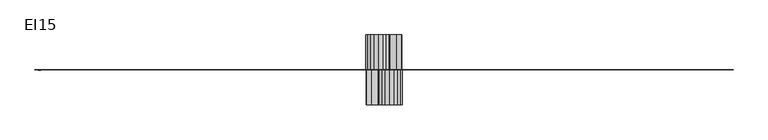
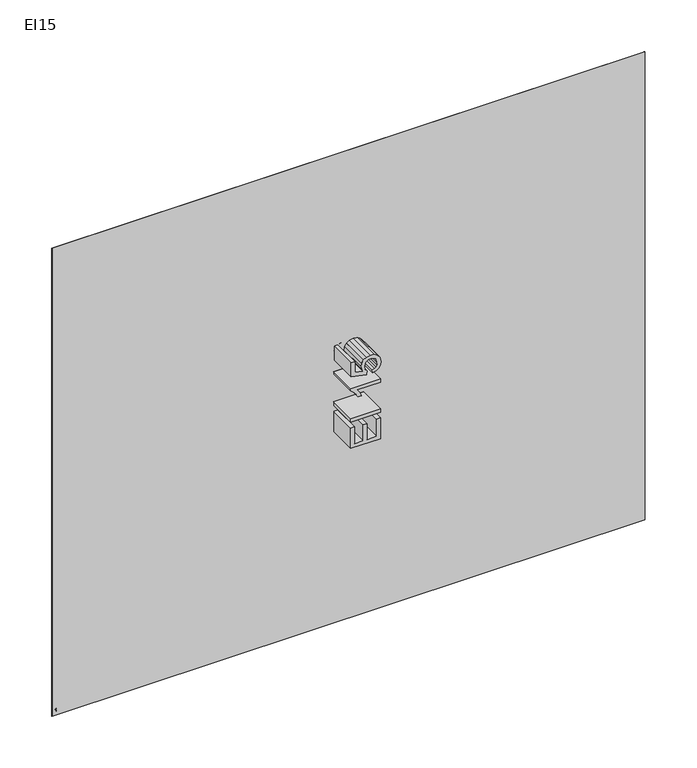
"""IFC4 building model written with IfcOpenShell, lengths in millimetres: proxy geometry, Fire_FireCompartmentationEI : EI15."""

import ifcopenshell
import ifcopenshell.guid

model = None  # the IFC model being written
_history = None  # IfcOwnerHistory: only IFC2X3 demands one
_inside = {}  # id of a spatial element -> (the spatial element, [elements in it])
_under = {}  # id of a project, library or spatial element -> (it, [spatial elements below it])
_declared = {}  # id of a project -> (the project, [libraries it declares])
_typed = {}  # id of a type object -> (the type object, [elements of that type])
_made_of = {}  # id of a material, layer set ... -> (it, [elements and type objects made of it])


def new_model(schema):
    """Start an empty IFC model of exactly this schema.

    Asked for "IFC4X3", IfcOpenShell would pick the latest addendum, in which some entities
    have other attributes; the version numbers below select the first issue.
    IFC2X3 requires an IfcOwnerHistory on every rooted entity: one is made here for all.
    """
    global model, _history
    if schema == "IFC4X3":
        model = ifcopenshell.file(schema_version=(4, 3, 0, 0))
    else:
        model = ifcopenshell.file(schema=schema)
    _inside.clear()
    _under.clear()
    _declared.clear()
    _typed.clear()
    _made_of.clear()
    _history = None
    if model.schema == "IFC2X3":
        org = make("IfcOrganization", Name="unknown")
        user = make(
            "IfcPersonAndOrganization",
            ThePerson=make("IfcPerson", FamilyName="unknown"),
            TheOrganization=org,
        )
        app = make(
            "IfcApplication",
            ApplicationDeveloper=org,
            Version="unknown",
            ApplicationFullName="unknown",
            ApplicationIdentifier="unknown",
        )
        _history = make(
            "IfcOwnerHistory",
            OwningUser=user,
            OwningApplication=app,
            ChangeAction="ADDED",
            CreationDate=0,
        )
    return model


def make(cls, **values):
    """One entity of the class cls with the attributes given. An attribute that is None is left unset."""
    return model.create_entity(
        cls, **{name: value for name, value in values.items() if value is not None}
    )


def rooted(cls, **values):
    """An entity with a GlobalId (a new one), such as an element, a storey or a relation."""
    return make(cls, GlobalId=ifcopenshell.guid.new(), OwnerHistory=_history, **values)


def si_unit(unit_type, name, prefix=None):
    """IfcSIUnit, for example si_unit("LENGTHUNIT", "METRE", prefix="MILLI")."""
    return make("IfcSIUnit", UnitType=unit_type, Prefix=prefix, Name=name)


def assignment(units):
    """IfcUnitAssignment: the units of a project."""
    return None if units is None else make("IfcUnitAssignment", Units=units)


def point(xyz):
    """IfcCartesianPoint."""
    return None if xyz is None else make("IfcCartesianPoint", Coordinates=xyz)


def direction(xyz):
    """IfcDirection."""
    return None if xyz is None else make("IfcDirection", DirectionRatios=xyz)


def frame(location, z_axis=None, x_axis=None):
    """IfcAxis2Placement3D, a coordinate frame: its origin and axes. An axis left out is left unset."""
    return make(
        "IfcAxis2Placement3D",
        Location=point(location),
        Axis=direction(z_axis),
        RefDirection=direction(x_axis),
    )


def frame_2d(location, x_axis=None):
    """IfcAxis2Placement2D, a coordinate frame in the plane: its origin and x axis."""
    return make(
        "IfcAxis2Placement2D", Location=point(location), RefDirection=direction(x_axis)
    )


def origin():
    """The frame at (0, 0, 0) with its axes left unset."""
    return frame((0.0, 0.0, 0.0))


def origin_with_axes():
    """The frame at (0, 0, 0) with the z axis (0, 0, 1) and the x axis (1, 0, 0) written out."""
    return frame((0.0, 0.0, 0.0), z_axis=(0.0, 0.0, 1.0), x_axis=(1.0, 0.0, 0.0))


def place(relative_to, where):
    """IfcLocalPlacement: puts the frame where relative to a parent placement (None: the world)."""
    return make(
        "IfcLocalPlacement", PlacementRelTo=relative_to, RelativePlacement=where
    )


def context(
    kind, dimensions, precision=None, world=None, true_north=None, identifier=None
):
    """IfcGeometricRepresentationContext, for example the 3D "Model" context."""
    return make(
        "IfcGeometricRepresentationContext",
        ContextIdentifier=identifier,
        ContextType=kind,
        CoordinateSpaceDimension=dimensions,
        Precision=precision,
        WorldCoordinateSystem=world,
        TrueNorth=true_north,
    )


def project(units=None, contexts=None):
    """IfcProject with its units and contexts."""
    return rooted(
        "IfcProject",
        Name="project",
        RepresentationContexts=contexts,
        UnitsInContext=assignment(units),
    )


def spatial(cls, under=None, at=None, **own):
    """A site, building, storey or space (cls), placed at a placement, below another one or the project."""
    s = rooted(cls, ObjectPlacement=at, **own)
    if under is not None:
        _under.setdefault(under.id(), (under, []))[1].append(s)
    return s


def polyline(points):
    """IfcPolyline through the points."""
    return make("IfcPolyline", Points=[point(p) for p in points])


def circle_curve(where, radius):
    """IfcCircle in the frame where."""
    return make("IfcCircle", Position=where, Radius=radius)


def trimmed(basis, trim1, trim2, sense, master):
    """IfcTrimmedCurve: the piece of a basis curve between two trims."""
    return make(
        "IfcTrimmedCurve",
        BasisCurve=basis,
        Trim1=trim1,
        Trim2=trim2,
        SenseAgreement=sense,
        MasterRepresentation=master,
    )


def segment(curve, same_sense, transition):
    """IfcCompositeCurveSegment."""
    return make(
        "IfcCompositeCurveSegment",
        Transition=transition,
        SameSense=same_sense,
        ParentCurve=curve,
    )


def composite_curve(segments, self_intersect=None):
    """IfcCompositeCurve: segments joined end to end."""
    return make("IfcCompositeCurve", Segments=segments, SelfIntersect=self_intersect)


def outline(outer, holes=None, kind="AREA"):
    """IfcArbitraryClosedProfileDef: a profile drawn as a closed curve; with holes, ...WithVoids."""
    if holes is None:
        return make("IfcArbitraryClosedProfileDef", ProfileType=kind, OuterCurve=outer)
    return make(
        "IfcArbitraryProfileDefWithVoids",
        ProfileType=kind,
        OuterCurve=outer,
        InnerCurves=holes,
    )


def extrude(swept, where, along, depth):
    """IfcExtrudedAreaSolid: the profile swept, set in the frame where, extruded along a direction by depth."""
    return make(
        "IfcExtrudedAreaSolid",
        SweptArea=swept,
        Position=where,
        ExtrudedDirection=direction(along),
        Depth=depth,
    )


def shape(context_of_items, identifier, shape_type, items):
    """IfcShapeRepresentation: the items that make up one representation, for example the "Body"."""
    return make(
        "IfcShapeRepresentation",
        ContextOfItems=context_of_items,
        RepresentationIdentifier=identifier,
        RepresentationType=shape_type,
        Items=items,
    )


def source(mapping_origin, context_of_items, identifier, shape_type, items):
    """IfcRepresentationMap: a shape defined once, which mapped items show again and again."""
    return make(
        "IfcRepresentationMap",
        MappingOrigin=mapping_origin,
        MappedRepresentation=shape(context_of_items, identifier, shape_type, items),
    )


def transform(
    local_origin,
    x_axis=None,
    y_axis=None,
    z_axis=None,
    scale=None,
    scale2=None,
    scale3=None,
    uniform=True,
):
    """IfcCartesianTransformationOperator3D, or its non-uniform kind. x_axis, y_axis, z_axis: its Axis1, 2, 3."""
    if uniform:
        return make(
            "IfcCartesianTransformationOperator3D",
            Axis1=direction(x_axis),
            Axis2=direction(y_axis),
            LocalOrigin=point(local_origin),
            Scale=scale,
            Axis3=direction(z_axis),
        )
    return make(
        "IfcCartesianTransformationOperator3DnonUniform",
        Axis1=direction(x_axis),
        Axis2=direction(y_axis),
        LocalOrigin=point(local_origin),
        Scale=scale,
        Axis3=direction(z_axis),
        Scale2=scale2,
        Scale3=scale3,
    )


def mapped(mapping_source, mapping_target):
    """IfcMappedItem: shows the shape of a source again, moved by a transform."""
    return make(
        "IfcMappedItem", MappingSource=mapping_source, MappingTarget=mapping_target
    )


def made_of(thing, what):
    """Note that an element or type object is made of a material, layer set ...; save() writes the relation."""
    if what is not None:
        _made_of.setdefault(what.id(), (what, []))[1].append(thing)
    return thing


def element(
    cls,
    number,
    at=None,
    inside=None,
    cuts=None,
    type_object=None,
    material=None,
    context=None,
    identifier="Body",
    shape_type=None,
    held_by="IfcProductDefinitionShape",
    body=None,
    shapes=None,
    **own,
):
    """One element of the class cls, such as IfcWall. Its Tag is "e" and its number.

    at: its placement. inside: the storey or other place that contains it. cuts: it is an
    opening in that element (IfcRelVoidsElement). A single representation is given by context,
    identifier, shape_type and body (its items); several are given by shapes. held_by: the class
    of the entity that holds the representations. save() writes the other relations.
    """
    e = rooted(cls, Tag="e%d" % number, ObjectPlacement=at, **own)
    if body is not None:
        shapes = [shape(context, identifier, shape_type, body)]
    if shapes is not None:
        e.Representation = make(held_by, Representations=shapes)
    if inside is not None:
        _inside.setdefault(inside.id(), (inside, []))[1].append(e)
    if cuts is not None:
        rooted(
            "IfcRelVoidsElement", RelatingBuildingElement=cuts, RelatedOpeningElement=e
        )
    if type_object is not None:
        _typed.setdefault(type_object.id(), (type_object, []))[1].append(e)
    return made_of(e, material)


def aggregate(whole, parts):
    """IfcRelAggregates: a whole, such as a stair, and the parts it consists of."""
    return rooted("IfcRelAggregates", RelatingObject=whole, RelatedObjects=parts)


def save(model, path):
    """Write the relations noted so far, then the file.

    IfcRelAggregates (storeys below a building ...), IfcRelContainedInSpatialStructure (elements
    in a storey), IfcRelDefinesByType, IfcRelAssociatesMaterial and IfcRelDeclares: one each for
    every whole, place, type object, material and project.
    """
    for whole, parts in _under.values():
        aggregate(whole, parts)
    for where, things in _inside.values():
        rooted(
            "IfcRelContainedInSpatialStructure",
            RelatedElements=things,
            RelatingStructure=where,
        )
    for kind, things in _typed.values():
        rooted("IfcRelDefinesByType", RelatedObjects=things, RelatingType=kind)
    for what, things in _made_of.values():
        rooted("IfcRelAssociatesMaterial", RelatedObjects=things, RelatingMaterial=what)
    for by, libraries in _declared.values():
        rooted("IfcRelDeclares", RelatingContext=by, RelatedDefinitions=libraries)
    model.write(path)


def ei15_5a2ea401(model_context):
    return source(origin(), model_context, "Body", "SweptSolid", [
        extrude(outline(polyline([(3000.0, -0.5), (0.0, -0.5), (0.0, 0.5), (3000.0, 0.5), (3000.0, -0.5)])), origin_with_axes(), (0.0, 0.0, 1.0), 2500.0),
        extrude(outline(composite_curve([segment(trimmed(circle_curve(frame_2d((28.9488523, 20.9372462)), 4.3000253), [point((27.7936078, 25.0791815))], [point((29.724042, 25.1668205))], False, "CARTESIAN"), True, "CONTINUOUS"), segment(trimmed(circle_curve(frame_2d((29.6833004, 19.2917407)), 5.875221), [point((29.724042, 25.1668205))], [point((32.6283278, 24.3755421))], False, "CARTESIAN"), True, "CONTINUOUS"), segment(trimmed(circle_curve(frame_2d((32.8576867, 20.8662932)), 3.5167361), [point((32.6283278, 24.3755421))], [point((30.6249304, 23.5833197))], True, "CARTESIAN"), True, "CONTINUOUS"), segment(trimmed(circle_curve(frame_2d((10.876956, 53.8348059)), 36.1266511), [point((30.6249304, 23.5833197))], [point((25.8949704, 20.9776277))], False, "CARTESIAN"), True, "CONTINUOUS"), segment(trimmed(circle_curve(frame_2d((21.9041848, 33.757735)), 13.3887083), [point((25.8949704, 20.9776277))], [point((22.6832699, 20.3917132))], False, "CARTESIAN"), True, "CONTINUOUS"), segment(trimmed(circle_curve(frame_2d((20.9508608, 39.8789486)), 19.5640891), [point((22.6832699, 20.3917132))], [point((20.0109811, 20.3374489))], False, "CARTESIAN"), True, "CONTINUOUS"), segment(trimmed(circle_curve(frame_2d((18.2722891, 30.1747881)), 9.9898094), [point((20.0109811, 20.3374489))], [point((25.2489423, 23.0247809))], True, "CARTESIAN"), True, "CONTINUOUS"), segment(trimmed(circle_curve(frame_2d((30.9774835, 18.5323372)), 7.2799887), [point((25.2489423, 23.0247809))], [point((27.7936078, 25.0791815))], False, "CARTESIAN"), True, "CONTINUOUS")], self_intersect=False)), frame((0.0, -0.6, 0.0), z_axis=(0.0, 1.0, 0.0), x_axis=(0.0, 0.0, 1.0)), (0.0, 0.0, 1.0), 1.2),
        extrude(outline(composite_curve([segment(trimmed(circle_curve(frame_2d((34.8553456, 17.4656787)), 4.3823741), [point((35.4675373, 21.8050824))], [point((32.7666638, 21.3182897))], True, "CARTESIAN"), True, "CONTINUOUS"), segment(trimmed(circle_curve(frame_2d((31.0348418, 25.2412811)), 4.2882478), [point((32.7666638, 21.3182897))], [point((31.0556823, 20.9530839))], False, "CARTESIAN"), True, "CONTINUOUS"), segment(trimmed(circle_curve(frame_2d((30.8661112, 26.3534755)), 5.4037178), [point((31.0556823, 20.9530839))], [point((28.4262544, 21.5319337))], False, "CARTESIAN"), True, "CONTINUOUS"), segment(trimmed(circle_curve(frame_2d((28.9867579, 26.8058524)), 5.3036197), [point((28.4262544, 21.5319337))], [point((30.6443727, 21.7679267))], True, "CARTESIAN"), True, "CONTINUOUS"), segment(trimmed(circle_curve(frame_2d((33.7648144, 18.2895153)), 4.6729544), [point((30.6443727, 21.7679267))], [point((32.5632515, 22.8053485))], False, "CARTESIAN"), True, "CONTINUOUS"), segment(trimmed(circle_curve(frame_2d((33.1708117, 19.8529583)), 3.0142556), [point((32.5632515, 22.8053485))], [point((35.4675373, 21.8050824))], False, "CARTESIAN"), True, "CONTINUOUS")], self_intersect=False)), frame((0.0, -0.6, 0.0), z_axis=(0.0, 1.0, 0.0), x_axis=(0.0, 0.0, 1.0)), (0.0, 0.0, 1.0), 1.2),
        extrude(outline(composite_curve([segment(trimmed(circle_curve(frame_2d((26.35828, 17.8501973)), 2.1465167), [point((27.6612009, 19.5560492))], [point((26.6135063, 19.9814864))], True, "CARTESIAN"), True, "CONTINUOUS"), segment(trimmed(circle_curve(frame_2d((25.771558, 13.6747037)), 6.3627341), [point((26.6135063, 19.9814864))], [point((25.1811141, 20.0099828))], True, "CARTESIAN"), True, "CONTINUOUS"), segment(trimmed(circle_curve(frame_2d((27.6708438, 15.0485986)), 5.5510437), [point((25.1811141, 20.0099828))], [point((27.8117089, 20.5978547))], False, "CARTESIAN"), True, "CONTINUOUS"), segment(trimmed(circle_curve(frame_2d((27.9681735, 17.2267436)), 3.3747401), [point((27.8117089, 20.5978547))], [point((29.507487, 20.2299728))], False, "CARTESIAN"), True, "CONTINUOUS"), segment(trimmed(circle_curve(frame_2d((31.5381431, 23.6896238)), 4.0115769), [point((29.507487, 20.2299728))], [point((32.2223971, 19.7368341))], True, "CARTESIAN"), True, "CONTINUOUS"), segment(trimmed(circle_curve(frame_2d((29.9256715, 21.6889582)), 3.0142556), [point((32.2223971, 19.7368341))], [point((29.3181113, 18.736568))], False, "CARTESIAN"), True, "CONTINUOUS"), segment(trimmed(circle_curve(frame_2d((30.5170043, 23.2454076)), 4.6655095), [point((29.3181113, 18.736568))], [point((27.6612009, 19.5560492))], False, "CARTESIAN"), True, "CONTINUOUS")], self_intersect=False)), frame((0.0, -0.6, 0.0), z_axis=(0.0, 1.0, 0.0), x_axis=(0.0, 0.0, 1.0)), (0.0, 0.0, 1.0), 1.2),
        extrude(outline(composite_curve([segment(trimmed(circle_curve(frame_2d((32.8467056, 19.4711557)), 3.5167361), [point((30.6139493, 16.7541292))], [point((32.6173467, 15.9619068))], True, "CARTESIAN"), True, "CONTINUOUS"), segment(trimmed(circle_curve(frame_2d((29.6723193, 21.0457082)), 5.875221), [point((32.6173467, 15.9619068))], [point((29.7130609, 15.1706284))], False, "CARTESIAN"), True, "CONTINUOUS"), segment(trimmed(circle_curve(frame_2d((28.9378712, 19.4002026)), 4.3000253), [point((29.7130609, 15.1706284))], [point((27.7826267, 15.2582674))], False, "CARTESIAN"), True, "CONTINUOUS"), segment(trimmed(circle_curve(frame_2d((30.9665024, 21.8051117)), 7.2799887), [point((27.7826267, 15.2582674))], [point((25.2379612, 17.312668))], False, "CARTESIAN"), True, "CONTINUOUS"), segment(trimmed(circle_curve(frame_2d((18.261308, 10.1626608)), 9.9898094), [point((25.2379612, 17.312668))], [point((20.0, 20.0))], True, "CARTESIAN"), True, "CONTINUOUS"), segment(trimmed(circle_curve(frame_2d((20.9398797, 0.4585003)), 19.5640891), [point((20.0, 20.0))], [point((22.6722888, 19.9457357))], False, "CARTESIAN"), True, "CONTINUOUS"), segment(trimmed(circle_curve(frame_2d((21.8932037, 6.5797139)), 13.3887083), [point((22.6722888, 19.9457357))], [point((25.8839893, 19.3598212))], False, "CARTESIAN"), True, "CONTINUOUS"), segment(trimmed(circle_curve(frame_2d((10.8659749, -13.497357)), 36.1266511), [point((25.8839893, 19.3598212))], [point((30.6139493, 16.7541292))], False, "CARTESIAN"), True, "CONTINUOUS")], self_intersect=False)), frame((0.0, -0.6, 0.0), z_axis=(0.0, 1.0, 0.0), x_axis=(0.0, 0.0, 1.0)), (0.0, 0.0, 1.0), 1.2),
        extrude(outline(polyline([(1022.7960798, 1425.0), (1022.7960798, 1575.6844652), (1131.1005392, 1575.6844652), (1131.1005392, 1556.8489071), (1041.6316379, 1556.8489071), (1041.6316379, 1512.1144565), (1126.3916496, 1512.1144565), (1126.3916496, 1493.2788983), (1041.6316379, 1493.2788983), (1041.6316379, 1443.8355582), (1133.4549839, 1443.8355582), (1133.4549839, 1425.0), (1022.7960798, 1425.0)])), frame((0.0, 0.0, 0.0), z_axis=(0.0, 1.0, 0.0), x_axis=(0.0, 0.0, 1.0)), (0.0, 0.0, 1.0), 150.0),
        extrude(outline(polyline([(1425.0, 150.0), (1575.6844652, 150.0), (1575.6844652, 0.0), (1425.0, 0.0), (1425.0, 150.0)])), frame((0.0, 0.0, 1164.0627659), z_axis=(0.0, 0.0, 1.0), x_axis=(1.0, 0.0, 0.0)), (0.0, 0.0, 1.0), 18.8355582),
        extrude(outline(polyline([(1343.0005684, 1425.0), (1324.1650102, 1425.0), (1324.1650102, 1542.4279329), (1306.3227335, 1529.7176099), (1286.4938939, 1520.2078604), (1286.4938939, 1538.0133489), (1314.1034377, 1555.6348965), (1330.8604625, 1575.6844652), (1343.0005684, 1575.6844652), (1343.0005684, 1425.0)])), frame((0.0, 0.0, 0.0), z_axis=(0.0, 1.0, 0.0), x_axis=(0.0, 0.0, 1.0)), (0.0, 0.0, 1.0), 150.0),
        extrude(outline(polyline([(1387.735019, 1465.0255611), (1406.5705771, 1467.3800058), (1410.0286679, 1456.072233), (1416.0619326, 1447.9742306), (1424.6427802, 1443.1043927), (1435.7436194, 1441.4811134), (1449.2448886, 1443.7389891), (1459.3616435, 1450.5126164), (1465.6800167, 1461.0202459), (1467.7861411, 1474.4801284), (1465.8133739, 1487.1536631), (1459.8950723, 1496.8473537), (1449.9852511, 1503.00018), (1436.037925, 1505.0511222), (1419.5016293, 1501.7769724), (1408.9250219, 1493.2788983), (1390.0894638, 1495.6333431), (1406.5705771, 1573.3300205), (1479.558365, 1573.3300205), (1479.558365, 1554.4944623), (1421.8008917, 1554.4944623), (1413.7074879, 1512.9973732), (1427.1627718, 1521.1643535), (1441.2618493, 1523.8866803), (1458.8650028, 1520.511363), (1473.4883121, 1510.3854111), (1483.3383525, 1494.9527614), (1486.6216993, 1475.6573507), (1483.6694463, 1456.8217926), (1474.8126873, 1440.7085612), (1457.8533273, 1427.1613067), (1435.670043, 1422.6455552), (1417.1701771, 1425.5472245), (1402.4319047, 1434.2522322), (1392.3289454, 1447.7489029), (1387.735019, 1465.0255611)])), frame((0.0, 0.0, 0.0), z_axis=(0.0, 1.0, 0.0), x_axis=(0.0, 0.0, 1.0)), (0.0, 0.0, 1.0), 150.0),
        extrude(outline(polyline([(1022.7960798, 1575.0), (1133.4549839, 1575.0), (1133.4549839, 1556.1644418), (1041.6316379, 1556.1644418), (1041.6316379, 1506.7211017), (1126.3916496, 1506.7211017), (1126.3916496, 1487.8855435), (1041.6316379, 1487.8855435), (1041.6316379, 1443.1510929), (1131.1005392, 1443.1510929), (1131.1005392, 1424.3155348), (1022.7960798, 1424.3155348), (1022.7960798, 1575.0)])), frame((0.0, -150.0, 0.0), z_axis=(0.0, 1.0, 0.0), x_axis=(0.0, 0.0, 1.0)), (0.0, 0.0, 1.0), 150.0),
        extrude(outline(polyline([(1575.0, -150.0), (1424.3155348, -150.0), (1424.3155348, 0.0), (1575.0, 0.0), (1575.0, -150.0)])), frame((0.0, 0.0, 1164.0627659), z_axis=(0.0, 0.0, 1.0), x_axis=(1.0, 0.0, 0.0)), (0.0, 0.0, 1.0), 18.8355582),
        extrude(outline(polyline([(1343.0005684, 1575.0), (1343.0005684, 1424.3155348), (1330.8604625, 1424.3155348), (1314.1034377, 1444.3651035), (1286.4938939, 1461.9866511), (1286.4938939, 1479.7921396), (1306.3227335, 1470.2823901), (1324.1650102, 1457.5720671), (1324.1650102, 1575.0), (1343.0005684, 1575.0)])), frame((0.0, -150.0, 0.0), z_axis=(0.0, 1.0, 0.0), x_axis=(0.0, 0.0, 1.0)), (0.0, 0.0, 1.0), 150.0),
        extrude(outline(polyline([(1387.735019, 1534.9744389), (1392.3289454, 1552.2510971), (1402.4319047, 1565.7477678), (1417.1701771, 1574.4527755), (1435.670043, 1577.3544448), (1457.8533273, 1572.8386933), (1474.8126873, 1559.2914388), (1483.6694463, 1543.1782074), (1486.6216993, 1524.3426493), (1483.3383525, 1505.0472386), (1473.4883121, 1489.6145889), (1458.8650028, 1479.488637), (1441.2618493, 1476.1133197), (1427.1627718, 1478.8356465), (1413.7074879, 1487.0026268), (1421.8008917, 1445.5055377), (1479.558365, 1445.5055377), (1479.558365, 1426.6699795), (1406.5705771, 1426.6699795), (1390.0894638, 1504.3666569), (1408.9250219, 1506.7211017), (1419.5016293, 1498.2230276), (1436.037925, 1494.9488778), (1449.9852511, 1496.99982), (1459.8950723, 1503.1526463), (1465.8133739, 1512.8463369), (1467.7861411, 1525.5198716), (1465.6800167, 1538.9797541), (1459.3616435, 1549.4873836), (1449.2448886, 1556.2610109), (1435.7436194, 1558.5188866), (1424.6427802, 1556.8956073), (1416.0619326, 1552.0257694), (1410.0286679, 1543.927767), (1406.5705771, 1532.6199942), (1387.735019, 1534.9744389)])), frame((0.0, -150.0, 0.0), z_axis=(0.0, 1.0, 0.0), x_axis=(0.0, 0.0, 1.0)), (0.0, 0.0, 1.0), 150.0),
    ])


if __name__ == "__main__":
    model = new_model("IFC4")
    model_context = context("Model", 3, world=origin())
    ifc_project = project(units=[si_unit("LENGTHUNIT", "METRE", prefix="MILLI")], contexts=[model_context])
    site = spatial("IfcSite", under=ifc_project)
    building = spatial("IfcBuilding", under=site)
    placement = place(None, origin())
    ei15_shape = ei15_5a2ea401(model_context)
    element("IfcBuildingElementProxy", 1, Name="Fire_FireCompartmentationEI : EI15", ObjectType="Fire_FireCompartmentationEI : EI15", at=placement, inside=building, context=model_context, shape_type="MappedRepresentation", body=[
        mapped(ei15_shape, transform((0.0, 0.0, 0.0), x_axis=(1.0, 0.0, 0.0), y_axis=(0.0, 1.0, 0.0), z_axis=(0.0, 0.0, 1.0))),
    ])
    save(model, "model.ifc")
